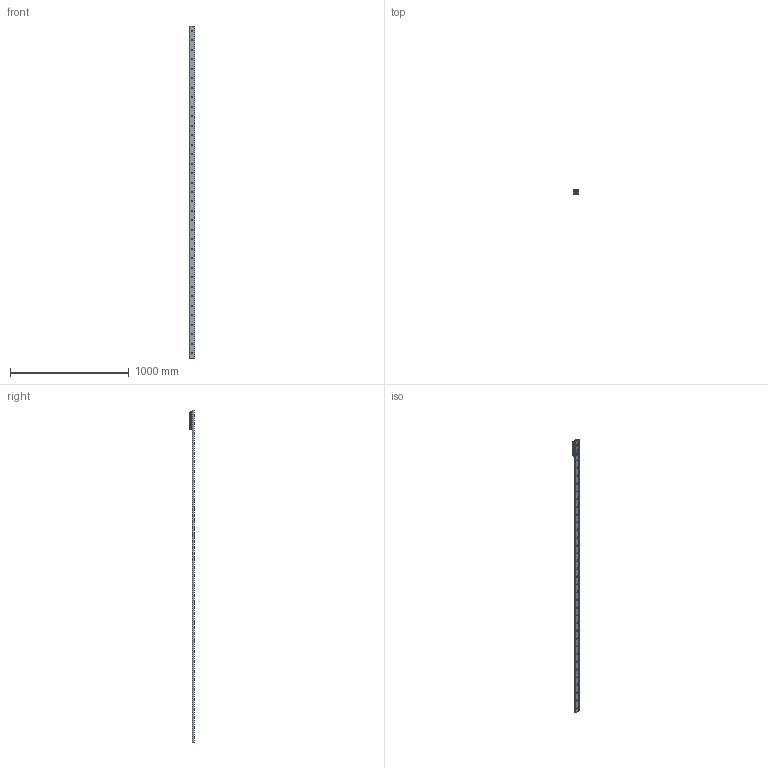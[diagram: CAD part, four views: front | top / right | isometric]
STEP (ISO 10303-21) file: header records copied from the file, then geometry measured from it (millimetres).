
FILE_DESCRIPTION( ( 'STEP AP214' ), '1' );
FILE_NAME( 'p:/temp/worker_15/temp/exporttempdir_3956_227_EzXEy/format_1/TGV-02800_1_RV43G-3.stp', '2021-05-14T19:20:50', ( 'License CC BY-ND 4.0' ), ( 'CADENAS' ), ' ', 'PARTsolutions', ' ' );
FILE_SCHEMA( ( 'AUTOMOTIVE_DESIGN { 1 0 10303 214 1 1 1 1 }' ) );
Length unit declared in the file: millimetre
Products named in the file (6): TGV-02800/1/RV43G-3; _TGV43-2800-(3-1); _RVG43-3-slider; _RGNV43R; _RGAV43R; _WR43G-01
Assembly tree (7 placements, depth 2):
  TGV-02800/1/RV43G-3
    _TGV43-2800-(3-1)
    _RVG43-3-slider
    _RGNV43R  x2
    _RGAV43R
    _WR43G-01  x2
Bounding box: 43 x 37 x 2800 mm (x, y, z)
Volume: 1145896 mm3; surface area: 461605.1 mm2
Topology: 7 solids, 7 shells, 1111 faces, 2899 edges, 1884 vertices
Faces by surface type: plane 663, cylinder 331, cone 74, bspline 34, torus 9
Full cylindrical faces by diameter (mm): 1.76 x4, 3 x8, 6 x4, 6.647 x4, 6.8 x3, 8 x3, 8.5 x35, 11 x11, 15 x6, 15.5 x1, 18.98 x2, 19 x1, 31.4 x6
Entity records: 26943 total; most frequent: CARTESIAN_POINT 4206, DIRECTION 3617, ORIENTED_EDGE 3274, EDGE_CURVE 1637, AXIS2_PLACEMENT_3D 1405, VERTEX_POINT 1156, EDGE_LOOP 1007, LINE 807
